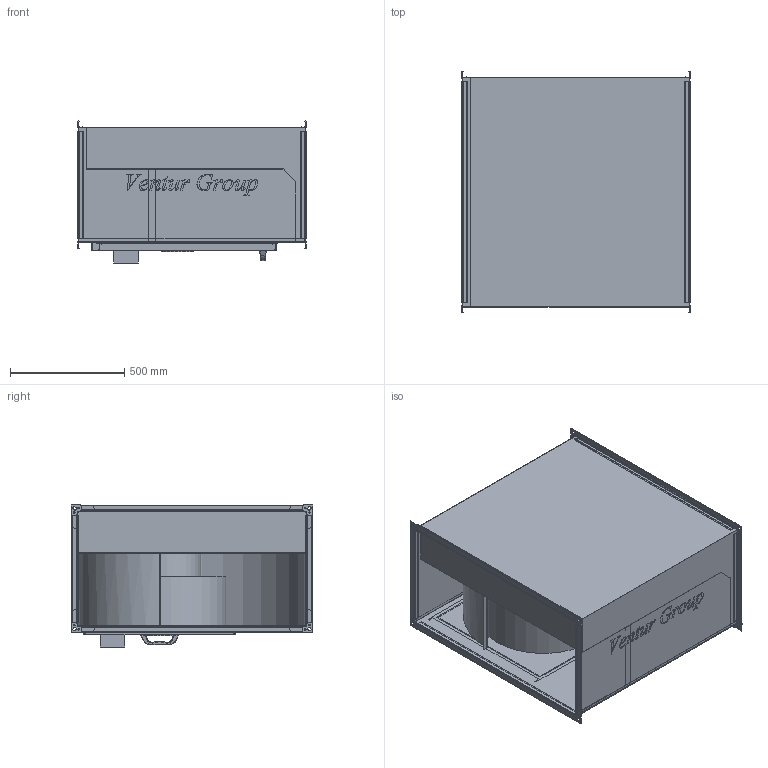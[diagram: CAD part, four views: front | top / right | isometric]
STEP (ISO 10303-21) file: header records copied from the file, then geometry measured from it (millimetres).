
FILE_DESCRIPTION(/* description */ (''),/* implementation_level */ '2;1');
FILE_NAME(/* name */ 'C:\Users\M.Janczarek\Documents\Modele uproszczone\IBF\IBF4_560T 41010250-01\IBF4_560T 41010250-01\IBF4_560T 41010250-01.stp',/* time_stamp */ '2018-03-26T16:45:20+02:00',/* author */ ('M.Janczarek'),/* organization */ (''),/* preprocessor_version */ 'ST-DEVELOPER v16.5',/* originating_system */ 'Autodesk Inventor 2017',/* authorisation */ '');
FILE_SCHEMA (('AUTOMOTIVE_DESIGN { 1 0 10303 214 3 1 1 }'));
Length unit declared in the file: millimetre
Products named in the file (1): IBF4_560T 41010250-01
Bounding box: 1000 x 1059 x 622.28 mm (x, y, z)
Volume: 77753379.5 mm3; surface area: 12651167.9 mm2
Topology: 1 solids, 1 shells, 1171 faces, 3515 edges, 2308 vertices
Faces by surface type: plane 697, bspline 267, cylinder 207
Full cylindrical faces by diameter (mm): 6.8 x16, 140 x1, 360 x1, 580 x1
Entity records: 41780 total; most frequent: CARTESIAN_POINT 10620, ORIENTED_EDGE 6992, DIRECTION 5230, EDGE_CURVE 3496, LINE 2552, VECTOR 2552, VERTEX_POINT 2308, AXIS2_PLACEMENT_3D 1339
